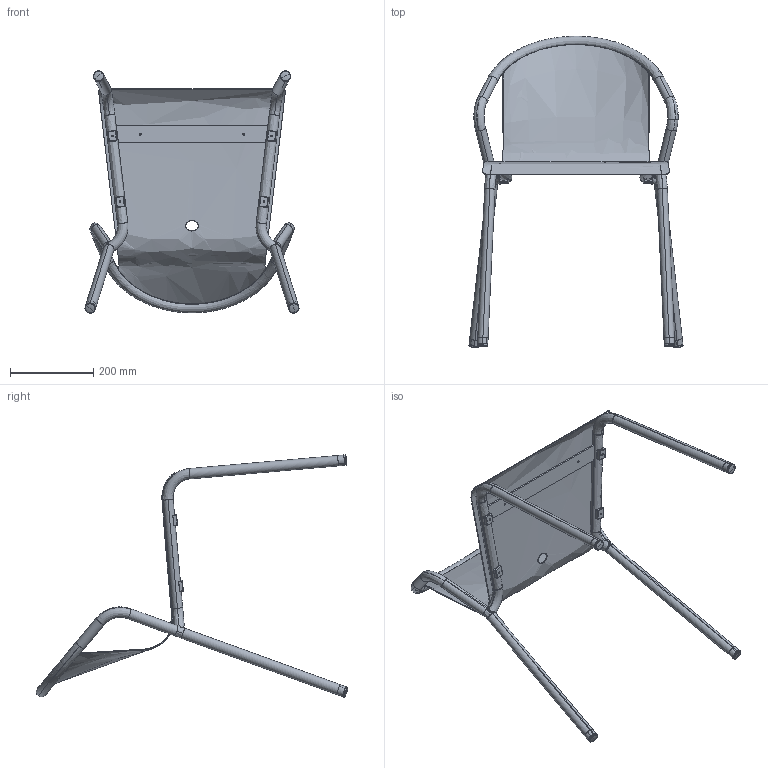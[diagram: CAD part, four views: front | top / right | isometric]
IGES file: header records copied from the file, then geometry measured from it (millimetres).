
Start section: SolidWorks IGES file using analytic representation for surfaces
Global section: file name: \\Adico-pc1\adico_andre\ADICO_2016\HOTELARIA\OUTDOOR\02_16\PEDRO SOTTOMAYOR\enviado por cliente\9. MARIA MANEL - ADICO\para envio EMAIL\MARIA_3D.IGS; native system: SolidWorks 2012; preprocessor: SolidWorks 2012; author: andre; date: 170125.144635; units: millimetre
Bounding box: 515.54 x 750.52 x 583.56 mm (x, y, z)
Surface area: 1114653.8 mm2 (no closed solid volume)
Topology: 0 solids, 0 shells, 286 faces, 4064 edges, 4056 vertices
Faces by surface type: bspline 152, revolution 134
